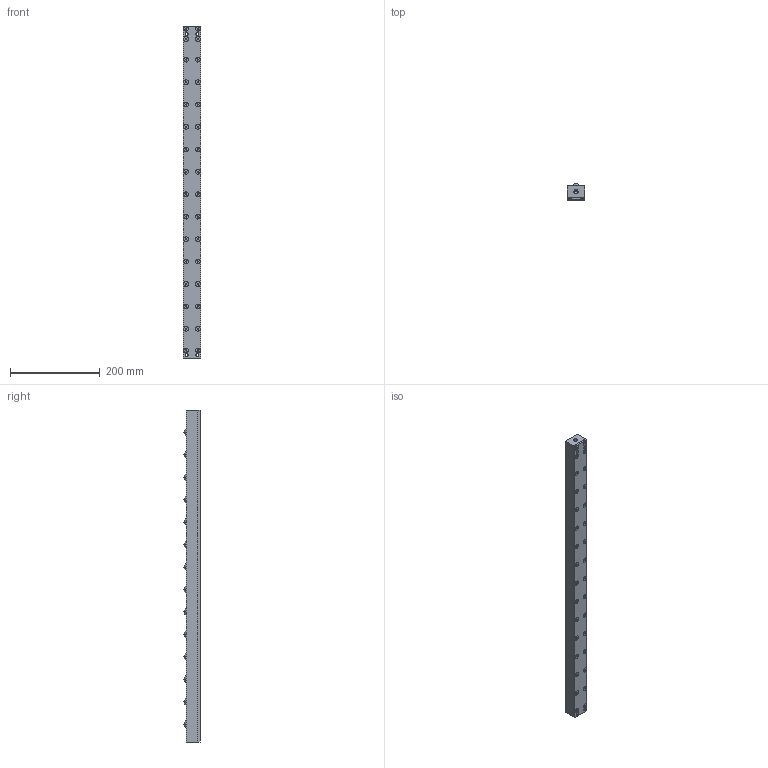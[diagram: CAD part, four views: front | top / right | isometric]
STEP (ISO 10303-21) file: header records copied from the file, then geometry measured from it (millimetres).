
FILE_DESCRIPTION (( 'STEP AP203' ), '1' );
FILE_NAME ('PVL30SL-14-P50.STEP', '2016-01-06T05:58:27', ( '' ), ( '' ), 'SwSTEP 2.0', 'SolidWorks 2013', '' );
FILE_SCHEMA (( 'CONFIG_CONTROL_DESIGN' ));
Length unit declared in the file: millimetre
Products named in the file (1): PVL30SL-14-P50
Bounding box: 38 x 36 x 740 mm (x, y, z)
Volume: 872340.2 mm3; surface area: 241548.5 mm2
Topology: 9 solids, 9 shells, 625 faces, 1428 edges, 945 vertices
Faces by surface type: plane 339, cylinder 218, cone 40, sphere 28
Entity records: 17805 total; most frequent: DIRECTION 3210, CARTESIAN_POINT 2985, ORIENTED_EDGE 2828, EDGE_CURVE 1414, AXIS2_PLACEMENT_3D 1170, VERTEX_POINT 945, VECTOR 870, LINE 870
